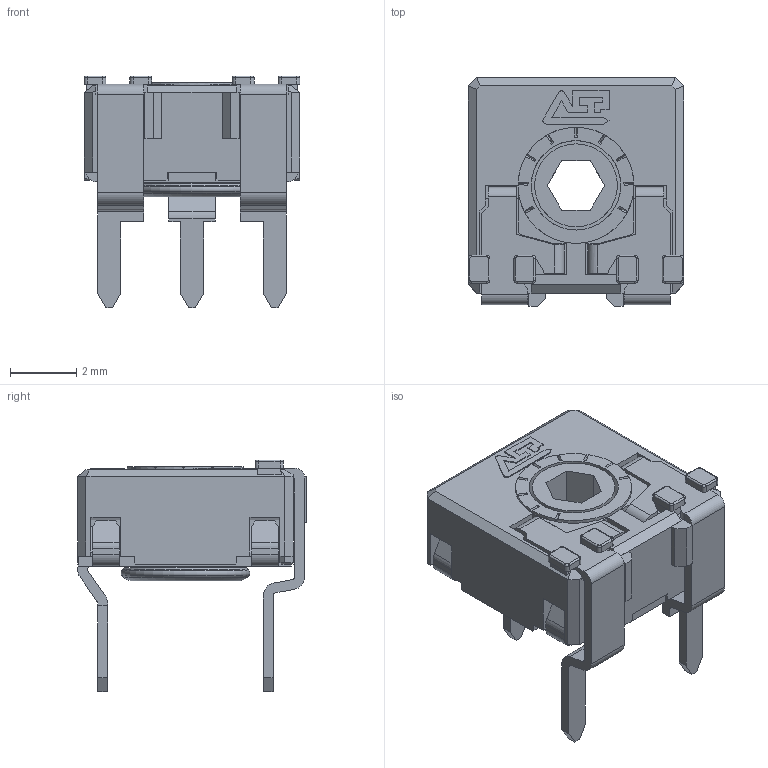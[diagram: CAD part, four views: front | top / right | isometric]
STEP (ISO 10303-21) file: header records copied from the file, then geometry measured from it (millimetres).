
FILE_DESCRIPTION(/* description */ (''),/* implementation_level */ '2;1');
FILE_NAME(/* name */ '\\SERVERACP\intercambio\Ignacio Santa Cecilia\Nueva WEB 2025\CA6\CA6MVS5.stp',/* time_stamp */ '2025-06-05T10:21:39+02:00',/* author */ ('CEM'),/* organization */ (''),/* preprocessor_version */ 'ST-DEVELOPER v17',/* originating_system */ 'Autodesk Inventor 2018',/* authorisation */ '');
FILE_SCHEMA (('AUTOMOTIVE_DESIGN { 1 0 10303 214 3 1 1 }'));
Length unit declared in the file: millimetre
Products named in the file (1): CARCASA CA6
Bounding box: 6.5 x 6.9 x 7 mm (x, y, z)
Volume: 91.8 mm3; surface area: 394.8 mm2
Topology: 1 solids, 1 shells, 536 faces, 1513 edges, 973 vertices
Faces by surface type: plane 407, cylinder 90, cone 17, bspline 16, torus 6
Full cylindrical faces by diameter (mm): 2.5 x1, 2.7 x1, 2.9 x1, 3.1 x1, 3.5 x1
Entity records: 17424 total; most frequent: CARTESIAN_POINT 3207, ORIENTED_EDGE 3026, DIRECTION 2817, EDGE_CURVE 1513, LINE 1195, VECTOR 1195, VERTEX_POINT 973, AXIS2_PLACEMENT_3D 811
